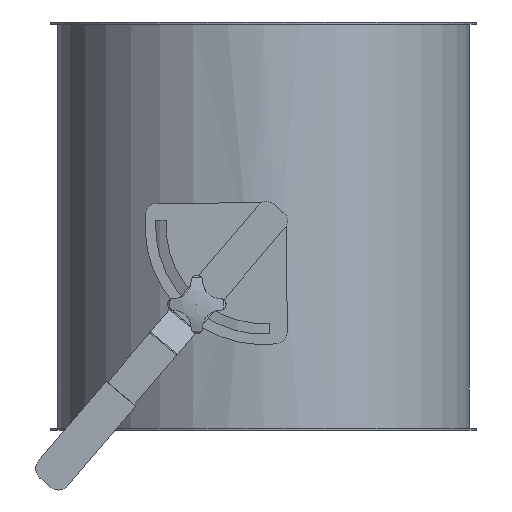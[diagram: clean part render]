
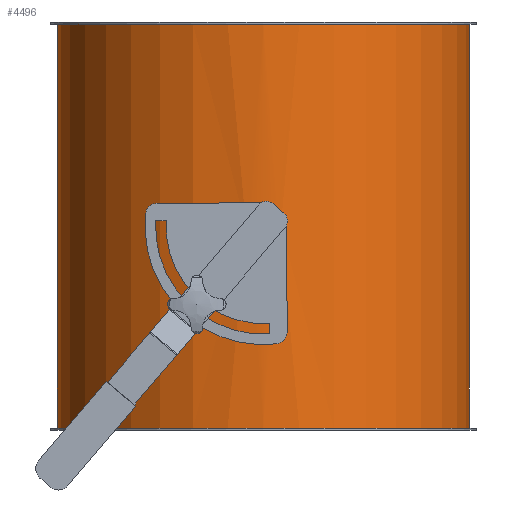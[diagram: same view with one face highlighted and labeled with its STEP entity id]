
A CAD part, left-side view. The second image highlights one B-rep face of the part: STEP entity #4496.
In plain terms, the highlighted cylindrical face has radius 176.5 mm (diameter 353 mm), a full revolution.
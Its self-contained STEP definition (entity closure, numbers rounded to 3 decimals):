
#4371=CARTESIAN_POINT('',(175.473,19.015,175.0));
#4372=VERTEX_POINT('',#4371);
#4382=CARTESIAN_POINT('',(175.473,19.014,175.));
#4383=CARTESIAN_POINT('',(175.473,19.014,175.002));
#4384=CARTESIAN_POINT('',(175.473,19.014,175.004));
#4385=CARTESIAN_POINT('',(175.473,19.014,175.006));
#4386=CARTESIAN_POINT('',(175.473,19.013,177.908));
#4387=CARTESIAN_POINT('',(175.618,17.739,183.703));
#4388=CARTESIAN_POINT('',(176.117,12.276,190.75));
#4389=CARTESIAN_POINT('',(176.515,4.419,194.649));
#4390=CARTESIAN_POINT('',(176.515,-4.364,194.664));
#4391=CARTESIAN_POINT('',(176.121,-12.235,190.778));
#4392=CARTESIAN_POINT('',(175.562,-18.322,183.001));
#4393=CARTESIAN_POINT('',(175.399,-19.667,173.947));
#4394=CARTESIAN_POINT('',(175.647,-17.389,166.424));
#4395=CARTESIAN_POINT('',(176.047,-13.084,159.911));
#4396=CARTESIAN_POINT('',(176.518,-5.368,155.331));
#4397=CARTESIAN_POINT('',(176.515,4.371,155.345));
#4398=CARTESIAN_POINT('',(176.119,12.255,159.225));
#4399=CARTESIAN_POINT('',(175.704,16.806,165.086));
#4400=CARTESIAN_POINT('',(175.508,18.689,170.612));
#4401=CARTESIAN_POINT('',(175.473,19.014,173.55));
#4402=CARTESIAN_POINT('',(175.473,19.014,175.));
#4403=B_SPLINE_CURVE_WITH_KNOTS('',3,(#4382,#4383,#4384,#4385,#4386,#4387,#4388,#4389,#4390,#4391,#4392,#4393,#4394,#4395,#4396,#4397,#4398,#4399,#4400,#4401,#4402),.UNSPECIFIED.,.T.,.U.,(4,3,1,1,1,1,1,1,1,1,1,1,1,1,1,1,4),(-9.046,-9.045,-8.399,-7.753,-7.107,-6.461,-5.815,-5.169,-4.307,-3.876,-3.446,-2.584,-1.938,-1.292,-0.646,-0.323,0.),.UNSPECIFIED.);
#4404=EDGE_CURVE('',#4372,#4372,#4403,.T.);
#4409=CARTESIAN_POINT('',(0.0,0.0,0.0));
#4410=DIRECTION('',(0.0,0.0,1.0));
#4411=DIRECTION('',(-1.0,0.0,0.0));
#4412=AXIS2_PLACEMENT_3D('',#4409,#4410,#4411);
#4413=CYLINDRICAL_SURFACE('',#4412,176.5);
#4414=CARTESIAN_POINT('',(176.5,0.,348.0));
#4415=VERTEX_POINT('',#4414);
#4416=CARTESIAN_POINT('',(0.0,0.0,348.0));
#4417=DIRECTION('',(0.0,0.0,-1.0));
#4418=DIRECTION('',(-1.0,0.0,0.0));
#4419=AXIS2_PLACEMENT_3D('',#4416,#4417,#4418);
#4420=CIRCLE('',#4419,176.5);
#4421=EDGE_CURVE('',#4415,#4415,#4420,.T.);
#4422=ORIENTED_EDGE('',*,*,#4421,.T.);
#4423=EDGE_LOOP('',(#4422));
#4424=FACE_OUTER_BOUND('',#4423,.T.);
#4425=CARTESIAN_POINT('',(-176.5,0.,2.0));
#4426=VERTEX_POINT('',#4425);
#4427=CARTESIAN_POINT('',(0.0,0.0,2.0));
#4428=DIRECTION('',(0.0,0.0,1.0));
#4429=DIRECTION('',(-1.0,0.0,0.0));
#4430=AXIS2_PLACEMENT_3D('',#4427,#4428,#4429);
#4431=CIRCLE('',#4430,176.5);
#4432=EDGE_CURVE('',#4426,#4426,#4431,.T.);
#4433=ORIENTED_EDGE('',*,*,#4432,.T.);
#4434=EDGE_LOOP('',(#4433));
#4435=FACE_BOUND('',#4434,.T.);
#4436=CARTESIAN_POINT('',(-175.861,15.0,175.0));
#4437=VERTEX_POINT('',#4436);
#4438=CARTESIAN_POINT('',(-175.861,15.0,175.0));
#4439=CARTESIAN_POINT('',(-175.861,15.0,175.942));
#4440=CARTESIAN_POINT('',(-175.869,14.91,176.916));
#4441=CARTESIAN_POINT('',(-175.901,14.53,178.854));
#4442=CARTESIAN_POINT('',(-175.925,14.24,179.818));
#4443=CARTESIAN_POINT('',(-176.015,13.092,182.589));
#4444=CARTESIAN_POINT('',(-176.101,11.938,184.275));
#4445=CARTESIAN_POINT('',(-176.261,9.275,186.938));
#4446=CARTESIAN_POINT('',(-176.346,7.589,188.092));
#4447=CARTESIAN_POINT('',(-176.437,4.818,189.24));
#4448=CARTESIAN_POINT('',(-176.461,3.854,189.53));
#4449=CARTESIAN_POINT('',(-176.492,1.916,189.91));
#4450=CARTESIAN_POINT('',(-176.5,0.942,190.0));
#4451=CARTESIAN_POINT('',(-176.5,-0.942,190.0));
#4452=CARTESIAN_POINT('',(-176.492,-1.916,189.91));
#4453=CARTESIAN_POINT('',(-176.461,-3.854,189.53));
#4454=CARTESIAN_POINT('',(-176.437,-4.818,189.24));
#4455=CARTESIAN_POINT('',(-176.346,-7.589,188.092));
#4456=CARTESIAN_POINT('',(-176.261,-9.275,186.938));
#4457=CARTESIAN_POINT('',(-176.101,-11.938,184.275));
#4458=CARTESIAN_POINT('',(-176.015,-13.092,182.589));
#4459=CARTESIAN_POINT('',(-175.925,-14.24,179.818));
#4460=CARTESIAN_POINT('',(-175.901,-14.53,178.854));
#4461=CARTESIAN_POINT('',(-175.869,-14.91,176.916));
#4462=CARTESIAN_POINT('',(-175.861,-15.0,175.942));
#4463=CARTESIAN_POINT('',(-175.861,-15.0,174.058));
#4464=CARTESIAN_POINT('',(-175.869,-14.91,173.084));
#4465=CARTESIAN_POINT('',(-175.901,-14.53,171.146));
#4466=CARTESIAN_POINT('',(-175.925,-14.24,170.182));
#4467=CARTESIAN_POINT('',(-176.015,-13.092,167.411));
#4468=CARTESIAN_POINT('',(-176.101,-11.938,165.725));
#4469=CARTESIAN_POINT('',(-176.261,-9.275,163.062));
#4470=CARTESIAN_POINT('',(-176.346,-7.589,161.908));
#4471=CARTESIAN_POINT('',(-176.437,-4.818,160.76));
#4472=CARTESIAN_POINT('',(-176.461,-3.854,160.47));
#4473=CARTESIAN_POINT('',(-176.492,-1.916,160.09));
#4474=CARTESIAN_POINT('',(-176.5,-0.942,160.0));
#4475=CARTESIAN_POINT('',(-176.5,0.942,160.0));
#4476=CARTESIAN_POINT('',(-176.492,1.916,160.09));
#4477=CARTESIAN_POINT('',(-176.461,3.854,160.47));
#4478=CARTESIAN_POINT('',(-176.437,4.818,160.76));
#4479=CARTESIAN_POINT('',(-176.346,7.589,161.908));
#4480=CARTESIAN_POINT('',(-176.261,9.275,163.062));
#4481=CARTESIAN_POINT('',(-176.101,11.938,165.725));
#4482=CARTESIAN_POINT('',(-176.015,13.092,167.411));
#4483=CARTESIAN_POINT('',(-175.925,14.24,170.182));
#4484=CARTESIAN_POINT('',(-175.901,14.53,171.146));
#4485=CARTESIAN_POINT('',(-175.869,14.91,173.084));
#4486=CARTESIAN_POINT('',(-175.861,15.0,174.058));
#4487=CARTESIAN_POINT('',(-175.861,15.0,175.));
#4488=B_SPLINE_CURVE_WITH_KNOTS('',3,(#4438,#4439,#4440,#4441,#4442,#4443,#4444,#4445,#4446,#4447,#4448,#4449,#4450,#4451,#4452,#4453,#4454,#4455,#4456,#4457,#4458,#4459,#4460,#4461,#4462,#4463,#4464,#4465,#4466,#4467,#4468,#4469,#4470,#4471,#4472,#4473,#4474,#4475,#4476,#4477,#4478,#4479,#4480,#4481,#4482,#4483,#4484,#4485,#4486,#4487),.UNSPECIFIED.,.T.,.U.,(4,2,2,2,2,2,2,2,2,2,2,2,2,2,2,2,2,2,2,2,2,2,2,2,4),(0.0,0.283,0.565,1.131,1.696,1.979,2.261,2.544,2.827,3.392,3.957,4.24,4.523,4.805,5.088,5.653,6.219,6.501,6.784,7.067,7.349,7.915,8.48,8.763,9.045),.UNSPECIFIED.);
#4489=EDGE_CURVE('',#4437,#4437,#4488,.T.);
#4490=ORIENTED_EDGE('',*,*,#4489,.T.);
#4491=EDGE_LOOP('',(#4490));
#4492=FACE_BOUND('',#4491,.T.);
#4493=ORIENTED_EDGE('',*,*,#4404,.F.);
#4494=EDGE_LOOP('',(#4493));
#4495=FACE_BOUND('',#4494,.T.);
#4496=ADVANCED_FACE('',(#4424,#4435,#4492,#4495),#4413,.T.);
